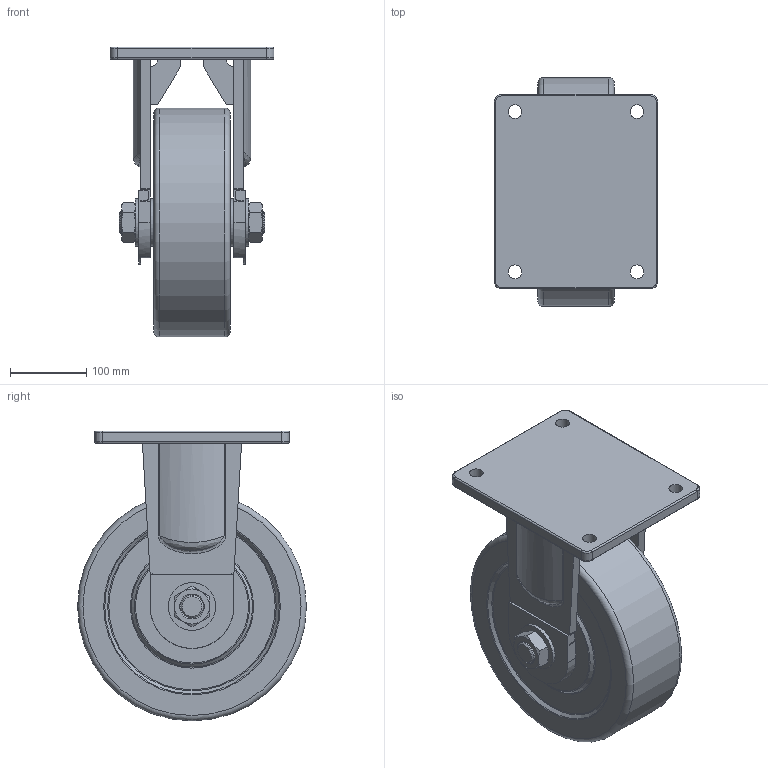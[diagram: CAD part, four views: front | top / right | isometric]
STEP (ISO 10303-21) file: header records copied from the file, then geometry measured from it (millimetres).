
FILE_DESCRIPTION((''),'2;1');
FILE_NAME('C:\Documents and Settings\Administrator\바탕 화면\3D STEP\UGXT-SERIES\UGXT-300\UGXT-300-RF.stp','2010-12-27T15:17:41',('Administrator'),(''),'Autodesk Inventor 2009','Autodesk Inventor 2009','');
FILE_SCHEMA(('AUTOMOTIVE_DESIGN { 1 0 10303 214 1 1 1 1 }'));
Length unit declared in the file: millimetre
Products named in the file (1): UGXT-300-RF
Bounding box: 215 x 300 x 380 mm (x, y, z)
Volume: 8409006.6 mm3; surface area: 579322.6 mm2
Topology: 2 solids, 2 shells, 279 faces, 670 edges, 421 vertices
Faces by surface type: plane 124, cylinder 83, cone 28, bspline 24, torus 20
Full cylindrical faces by diameter (mm): 1 x2, 18 x4, 30 x4, 30.5 x2, 38 x2, 38.5 x2, 50 x2, 60 x1, 62.5 x4, 63.334 x6, 76.666 x6, 78 x1, 90 x4, 300.001 x1
Entity records: 9728 total; most frequent: CARTESIAN_POINT 3762, DIRECTION 1244, ORIENTED_EDGE 1100, EDGE_CURVE 550, AXIS2_PLACEMENT_3D 486, EDGE_LOOP 412, VERTEX_POINT 392, FACE_OUTER_BOUND 279
